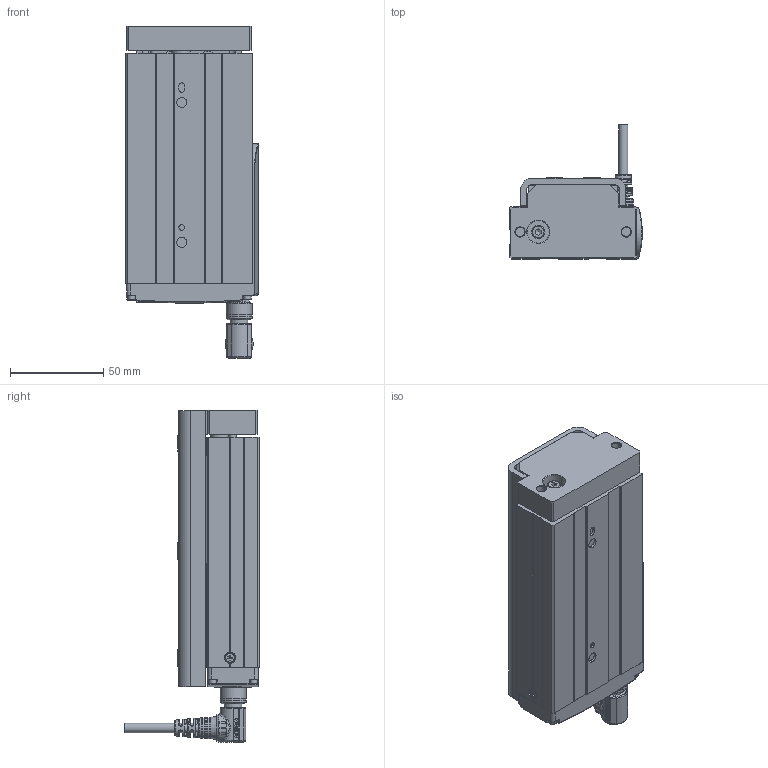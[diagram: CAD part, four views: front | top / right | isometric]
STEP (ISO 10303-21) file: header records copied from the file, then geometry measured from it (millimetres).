
FILE_DESCRIPTION(/* description */ ('STEP AP203'),/* implementation_level */ '2;1');
FILE_NAME(/* name */ 'D:\暫\2025.02.06 CSG 3D\CSG25\CSG25-S75-WW.stp',/* time_stamp */ '2025-02-08T10:02:06+08:00',/* author */ ('T10033'),/* organization */ (''),/* preprocessor_version */ 'ST-DEVELOPER v18.1',/* originating_system */ 'Autodesk Inventor 2020',/* authorisation */ '');
FILE_SCHEMA (('CONFIG_CONTROL_DESIGN'));
Products named in the file (18): CSG25-50行程-180接頭-完整組合; 22035-000061(G4ªo¯]); countersunk flat head cross recess screw_iso_ISO 7046-1 - M2.5 x 4 - 
Z - 4N; ©T©wªO-·¥­­¾×ª
O4-M2¤ú; socket head cap screw_iso_ISO 4762 M2.5 x 6 - 6N; socket head cap screw_iso_ISO 4762 M2.5 x 8 - 8N; ¶ì½¦ºÝ»-L¼Ë¦¡
(TOYO); socket head cap screw_iso_ISO 4762 M2 x 12 - 12N; M12 -14PIN  ªOºÝ-²Ä¤@ºØ
³W®æ; CSG25-50¥»Åé3ª©-ªo¤Õ
½Õ¾ã¨¤«×; CSG25-Carriage-newtype; Solid1-2; M12-14PIN 線端90度接頭-05中繼線; 12003-000221-­×§ï; 22024-000496; CNS 3932 - M 4 x 0.7 x 12; socket head cap screw_iso_ISO 4762 M2.5 x 5 - 5N; CNS 4558 - M5 x 0.8 x 12
Assembly tree (29 placements, depth 2):
  CSG25-50行程-180接頭-完整組合
    22035-000061(G4ªo¯])
    socket head cap screw_iso_ISO 4762 M2.5 x 8 - 8N  x8
    countersunk flat head cross recess screw_iso_ISO 7046-1 - M2.5 x 4 - 
Z - 4N
    ©T©wªO-·¥­­¾×ª
O4-M2¤ú
    socket head cap screw_iso_ISO 4762 M2.5 x 6 - 6N  x2
    ¶ì½¦ºÝ»-L¼Ë¦¡
(TOYO)
    socket head cap screw_iso_ISO 4762 M2 x 12 - 12N  x4
    M12 -14PIN  ªOºÝ-²Ä¤@ºØ
³W®æ
    CSG25-50¥»Åé3ª©-ªo¤Õ
½Õ¾ã¨¤«×
    CSG25-Carriage-newtype
    Solid1-2
    M12-14PIN 線端90度接頭-05中繼線
    12003-000221-­×§ï
    22024-000496
    CNS 3932 - M 4 x 0.7 x 12
    socket head cap screw_iso_ISO 4762 M2.5 x 5 - 5N
    CNS 4558 - M5 x 0.8 x 12  x2
Bounding box: 71 x 71.97 x 178 mm (x, y, z)
Volume: 338566.9 mm3; surface area: 89823 mm2
Topology: 43 solids, 53 shells, 2988 faces, 8205 edges, 5450 vertices
Faces by surface type: plane 1432, bspline 647, cylinder 495, cone 282, torus 125, sphere 7
Full cylindrical faces by diameter (mm): 0.6 x14, 0.65 x14, 1 x14, 1.6 x4, 2 x4, 2.05 x3, 2.5 x13, 2.9 x2, 3 x3, 3.8 x4, 4 x1, 4.134 x8, 4.5 x11, 4.7 x1, 4.95 x1, 5 x6, 5.2 x1, 5.3 x2, 5.4 x4, 5.5 x4, 6 x3, 7 x1, 8 x1, 8.9 x1, 9 x12, 9.5 x2, 9.6 x1, 10 x6, 10.4 x2, 10.5 x2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
Entity records: 115305 total; most frequent: CARTESIAN_POINT 44544, ORIENTED_EDGE 15129, DIRECTION 13277, EDGE_CURVE 7583, VERTEX_POINT 5063, AXIS2_PLACEMENT_3D 4641, LINE 3995, VECTOR 3995
